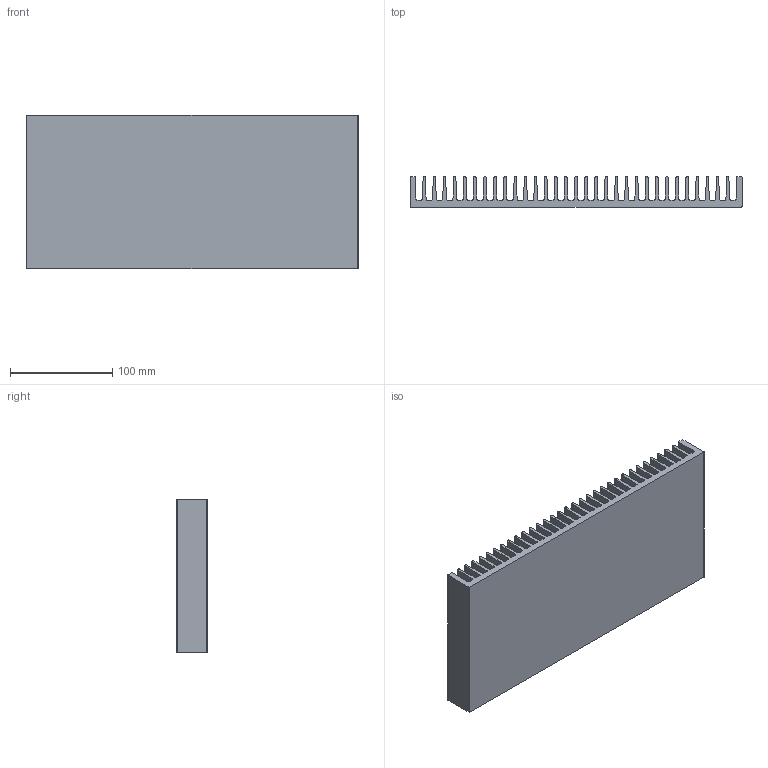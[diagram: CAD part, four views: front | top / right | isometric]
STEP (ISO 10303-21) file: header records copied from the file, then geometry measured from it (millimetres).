
FILE_DESCRIPTION (( 'STEP AP203' ), '1' );
FILE_NAME ('PR 298-150.step', '2002-10-21T08:49:07', ( 'Wolfgang Müller' ), ( 'DPS' ), 'SwSTEP 2.0', 'SolidWorks 2002264', '' );
FILE_SCHEMA (( 'CONFIG_CONTROL_DESIGN' ));
Length unit declared in the file: millimetre
Products named in the file (1): PR 298-150
Bounding box: 325 x 30 x 150 mm (x, y, z)
Volume: 690167.6 mm3; surface area: 323146.7 mm2
Topology: 1 solids, 1 shells, 204 faces, 606 edges, 404 vertices
Faces by surface type: plane 103, cylinder 101
Entity records: 6969 total; most frequent: DIRECTION 1218, CARTESIAN_POINT 1215, ORIENTED_EDGE 1212, EDGE_CURVE 606, AXIS2_PLACEMENT_3D 407, VERTEX_POINT 404, LINE 404, VECTOR 404
